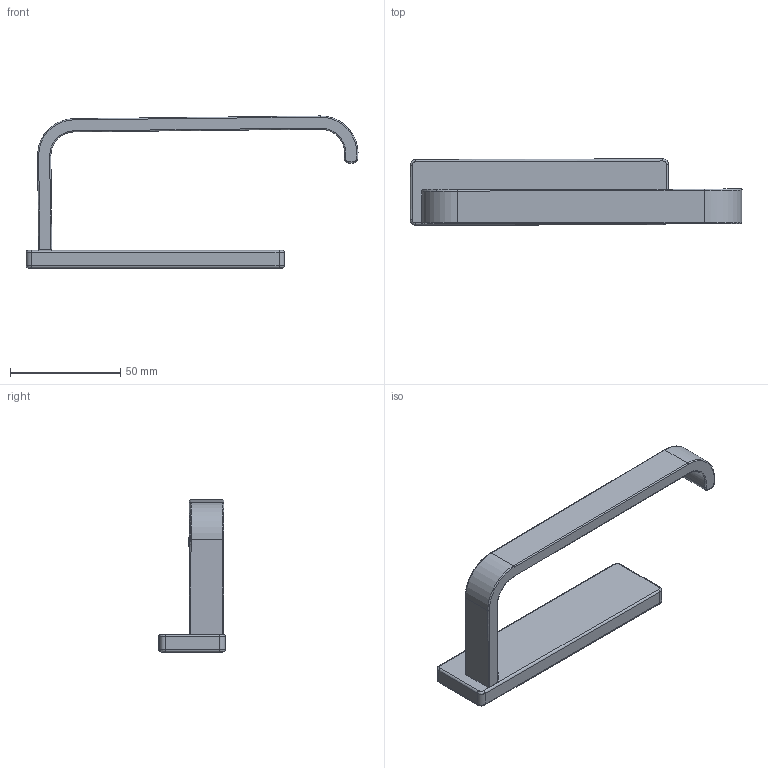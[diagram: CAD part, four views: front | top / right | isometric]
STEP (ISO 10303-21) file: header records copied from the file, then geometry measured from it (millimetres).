
FILE_DESCRIPTION(/* description */ (''),/* implementation_level */ '2;1');
FILE_NAME(/* name */ 'c:\worker\convert-fusion-r05\tmp\job-1\3\output\files\9fcebe37-4992-4f66-9698-7a1d67862edd\366a14a3-7552-4c6b-9f80-df589abfb654.zip.stp',/* time_stamp */ '2019-07-12T08:54:02+00:00',/* author */ (''),/* organization */ (''),/* preprocessor_version */ 'ST-DEVELOPER v18',/* originating_system */ 'Autodesk Translation Framework v8.2.0.1029',/* authorisation */ '');
FILE_SCHEMA (('AUTOMOTIVE_DESIGN { 1 0 10303 214 3 1 1 }'));
Length unit declared in the file: millimetre
Products named in the file (1): !DA70510
Bounding box: 150.61 x 30.12 x 68.97 mm (x, y, z)
Volume: 46504.3 mm3; surface area: 17717.1 mm2
Topology: 2 solids, 2 shells, 64 faces, 142 edges, 82 vertices
Faces by surface type: bspline 50, plane 14
Entity records: 4084 total; most frequent: CARTESIAN_POINT 2745, ORIENTED_EDGE 284, DIRECTION 246, EDGE_CURVE 142, AXIS2_PLACEMENT_3D 93, VERTEX_POINT 82, FACE_OUTER_BOUND 64, EDGE_LOOP 64
